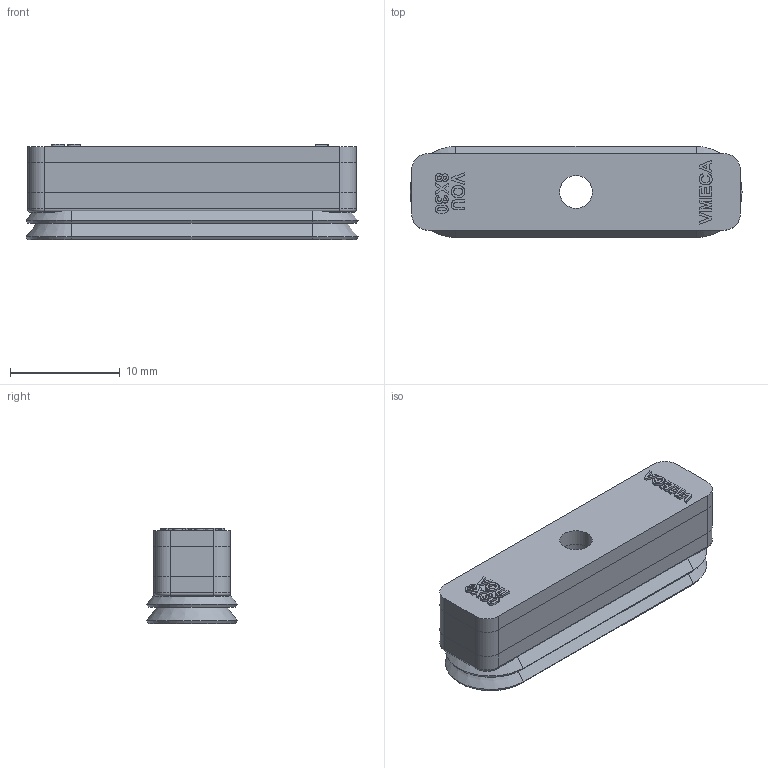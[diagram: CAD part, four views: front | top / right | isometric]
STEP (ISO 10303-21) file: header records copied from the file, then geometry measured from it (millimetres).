
FILE_DESCRIPTION( ( 'Unknown' ), '1' );
FILE_NAME( 'C:/Documents and Settings/Leeho/官帕 拳搁/VOU 8X30.stp', 'Unknown', ( 'Unknown' ), ( 'Unknown' ), 'PSStep 10.0', 'Unknown', ' ' );
FILE_SCHEMA( ( 'automotive_design' ) );
Length unit declared in the file: millimetre
Products named in the file (2): Assem1; 8X30_STP
Bounding box: 30.32 x 8.32 x 8.7 mm (x, y, z)
Surface area: 2075.9 mm2
Topology: 2 solids, 2 shells, 270 faces, 658 edges, 426 vertices
Faces by surface type: extrusion 170, plane 62, cylinder 22, cone 8, torus 8
Full cylindrical faces by diameter (mm): 3 x2
Entity records: 5922 total; most frequent: CARTESIAN_POINT 1838, ORIENTED_EDGE 642, DIRECTION 439, EDGE_CURVE 321, VECTOR 275, VERTEX_POINT 212, LINE 190, B_SPLINE_CURVE_WITH_KNOTS 186
